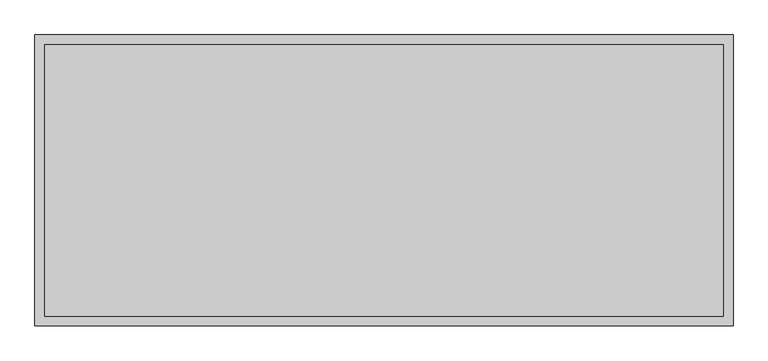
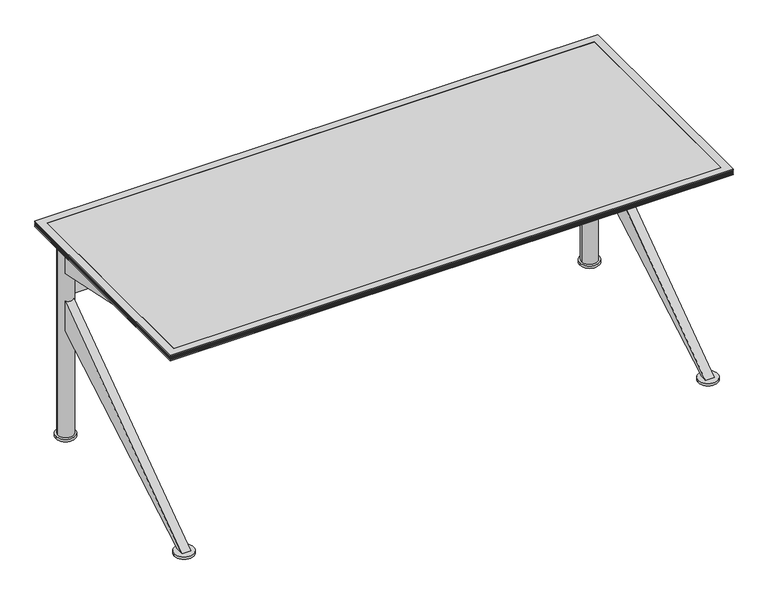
"""IFC4 building model written with IfcOpenShell, lengths in millimetres: furniture geometry, Coalesse_AM_Table_Conference_Ballet_Rectangular_KBase : Non Folding - 72L x 30W."""

from ifc_helpers import new_model, si_unit, point, frame, frame_2d, origin, origin_with_axes, place, context, project, spatial, polyline, circle_curve, trimmed, segment, composite_curve, outline, extrude, faceted_brep, source, transform, mapped, element, save
from ifc_brep_helpers import plane_surface, cylinder_surface, advanced_brep


def furniture_c7f1a0a6(model_context):
    return source(origin(), model_context, "Body", "SolidModel", [
        extrude(outline(composite_curve([segment(trimmed(circle_curve(frame_2d((-851.8092495, -349.25)), 25.4), [point((-877.2092495, -349.25))], [point((-826.4092495, -349.25))], False, "CARTESIAN"), True, "CONTINUOUS"), segment(trimmed(circle_curve(frame_2d((-851.8092495, -349.25)), 25.4), [point((-826.4092495, -349.25))], [point((-877.2092495, -349.25))], False, "CARTESIAN"), True, "CONTINUOUS")], self_intersect=False)), origin_with_axes(), (0.0, 0.0, 1.0), 4.2936144),
        extrude(outline(composite_curve([segment(trimmed(circle_curve(frame_2d((851.0624629, -349.25)), 25.4), [point((825.6624629, -349.25))], [point((876.4624629, -349.25))], False, "CARTESIAN"), True, "CONTINUOUS"), segment(trimmed(circle_curve(frame_2d((851.0624629, -349.25)), 25.4), [point((876.4624629, -349.25))], [point((825.6624629, -349.25))], False, "CARTESIAN"), True, "CONTINUOUS")], self_intersect=False)), origin_with_axes(), (0.0, 0.0, 1.0), 4.2936144),
        extrude(outline(composite_curve([segment(trimmed(circle_curve(frame_2d((851.0154995, 316.815286)), 25.4), [point((876.4154995, 316.815286))], [point((825.6154995, 316.815286))], False, "CARTESIAN"), True, "CONTINUOUS"), segment(trimmed(circle_curve(frame_2d((851.0154995, 316.815286)), 25.4), [point((825.6154995, 316.815286))], [point((876.4154995, 316.815286))], False, "CARTESIAN"), True, "CONTINUOUS")], self_intersect=False)), origin_with_axes(), (0.0, 0.0, 1.0), 4.2936144),
        extrude(outline(composite_curve([segment(trimmed(circle_curve(frame_2d((-851.8562129, 316.815286)), 25.4), [point((-826.4562129, 316.815286))], [point((-877.2562129, 316.815286))], False, "CARTESIAN"), True, "CONTINUOUS"), segment(trimmed(circle_curve(frame_2d((-851.8562129, 316.815286)), 25.4), [point((-877.2562129, 316.815286))], [point((-826.4562129, 316.815286))], False, "CARTESIAN"), True, "CONTINUOUS")], self_intersect=False)), origin_with_axes(), (0.0, 0.0, 1.0), 4.2936144),
        extrude(outline(composite_curve([segment(trimmed(circle_curve(frame_2d((851.0154995, 316.815286)), 31.75), [point((882.7654995, 316.815286))], [point((819.2654995, 316.815286))], False, "CARTESIAN"), True, "CONTINUOUS"), segment(trimmed(circle_curve(frame_2d((851.0154995, 316.815286)), 31.75), [point((819.2654995, 316.815286))], [point((882.7654995, 316.815286))], False, "CARTESIAN"), True, "CONTINUOUS")], self_intersect=False)), frame((0.0, 0.0, 4.2936144), z_axis=(0.0, 0.0, 1.0), x_axis=(1.0, 0.0, 0.0)), (0.0, 0.0, 1.0), 8.4063856),
        extrude(outline(composite_curve([segment(trimmed(circle_curve(frame_2d((-851.8562129, 316.815286)), 31.75), [point((-820.1062129, 316.815286))], [point((-883.6062129, 316.815286))], False, "CARTESIAN"), True, "CONTINUOUS"), segment(trimmed(circle_curve(frame_2d((-851.8562129, 316.815286)), 31.75), [point((-883.6062129, 316.815286))], [point((-820.1062129, 316.815286))], False, "CARTESIAN"), True, "CONTINUOUS")], self_intersect=False)), frame((0.0, 0.0, 4.2936144), z_axis=(0.0, 0.0, 1.0), x_axis=(1.0, 0.0, 0.0)), (0.0, 0.0, 1.0), 8.4063856),
        extrude(outline(polyline([(296.4656271, 577.7388634), (-269.874901, 698.5000242), (-238.124901, 698.5000242), (296.4656271, 641.3500242), (296.4656271, 577.7388634)])), frame((-865.2007845, 0.0, 0.0), z_axis=(1.0, 0.0, 0.0), x_axis=(0.0, 1.0, 0.0)), (0.0, 0.0, 1.0), 28.5877899),
        extrude(outline(polyline([(296.4656271, 381.0), (-338.1375951, 12.7), (-360.3624013, 12.7), (296.4656271, 482.7111245), (296.4656271, 381.0)])), frame((-865.2007845, 0.0, 0.0), z_axis=(1.0, 0.0, 0.0), x_axis=(0.0, 1.0, 0.0)), (0.0, 0.0, 1.0), 28.5877899),
        extrude(outline(polyline([(296.4656271, 577.7388634), (-269.874901, 698.5000242), (-238.124901, 698.5000242), (296.4656271, 641.3500242), (296.4656271, 577.7388634)])), frame((836.6121992, 0.0, 0.0), z_axis=(1.0, 0.0, 0.0), x_axis=(0.0, 1.0, 0.0)), (0.0, 0.0, 1.0), 28.575),
        extrude(outline(polyline([(296.4656271, 381.0), (-338.1375951, 12.7), (-360.3624013, 12.7), (296.4656271, 482.7111245), (296.4656271, 381.0)])), frame((836.6121992, 0.0, 0.0), z_axis=(1.0, 0.0, 0.0), x_axis=(0.0, 1.0, 0.0)), (0.0, 0.0, 1.0), 28.575),
        advanced_brep(
        [(828.9033169, 304.8000021, 568.3250121), (-828.9033169, 304.8000021, 568.3250121), (-828.9033169, 304.8000021, 492.1250121), (828.9033169, 304.8000021, 492.1250121), (-825.5003634, 317.5, 492.1250121), (-828.9032635, 330.1999052, 492.1250121), (828.9032635, 330.1999052, 492.1250121), (825.5003634, 317.5, 492.1250121), (-828.9032635, 330.1999052, 568.3250121), (828.9032635, 330.1999052, 568.3250121), (825.5003634, 317.5, 568.3250121), (-825.5003634, 317.5, 568.3250121), (-876.3003633, 317.5, 698.5000242), (-825.5003634, 317.5, 698.5000242), (825.5003634, 317.5, 698.5000242), (876.3003633, 317.5, 698.5000242), (-876.3003633, 317.5, 12.7), (-825.5003634, 317.5, 12.7), (825.5003634, 317.5, 12.7), (876.3003633, 317.5, 12.7)],
        [
            (0, 1),
            (1, 2),
            (2, 3),
            (3, 0),
            (2, 4, circle_curve(frame((-850.9003633, 317.5, 492.1250121), z_axis=(0.0, 0.0, 1.0), x_axis=(1.0, 0.0, 0.0)), 25.3999999)),
            (4, 5, circle_curve(frame((-850.9003633, 317.5, 492.1250121), z_axis=(0.0, 0.0, 1.0), x_axis=(1.0, 0.0, 0.0)), 25.3999999)),
            (5, 6),
            (6, 7, circle_curve(frame((850.9003633, 317.5, 492.1250121), z_axis=(0.0, 0.0, 1.0), x_axis=(1.0, 0.0, 0.0)), 25.3999999)),
            (7, 3, circle_curve(frame((850.9003633, 317.5, 492.1250121), z_axis=(0.0, 0.0, 1.0), x_axis=(1.0, 0.0, 0.0)), 25.3999999)),
            (5, 8),
            (8, 9),
            (9, 6),
            (0, 10, circle_curve(frame((850.9003633, 317.5, 568.3250121), z_axis=(0.0, 0.0, -1.0), x_axis=(1.0, 0.0, 0.0)), 25.3999999)),
            (10, 9, circle_curve(frame((850.9003633, 317.5, 568.3250121), z_axis=(0.0, 0.0, -1.0), x_axis=(1.0, 0.0, 0.0)), 25.3999999)),
            (8, 11, circle_curve(frame((-850.9003633, 317.5, 568.3250121), z_axis=(0.0, 0.0, -1.0), x_axis=(1.0, 0.0, 0.0)), 25.3999999)),
            (11, 1, circle_curve(frame((-850.9003633, 317.5, 568.3250121), z_axis=(0.0, 0.0, -1.0), x_axis=(1.0, 0.0, 0.0)), 25.3999999)),
            (12, 13, circle_curve(frame((-850.9003633, 317.5, 698.5000242), z_axis=(0.0, 0.0, 1.0), x_axis=(1.0, 0.0, 0.0)), 25.3999999)),
            (13, 12, circle_curve(frame((-850.9003633, 317.5, 698.5000242), z_axis=(0.0, 0.0, 1.0), x_axis=(1.0, 0.0, 0.0)), 25.3999999)),
            (14, 15, circle_curve(frame((850.9003633, 317.5, 698.5000242), z_axis=(0.0, 0.0, 1.0), x_axis=(1.0, 0.0, 0.0)), 25.3999999)),
            (15, 14, circle_curve(frame((850.9003633, 317.5, 698.5000242), z_axis=(0.0, 0.0, 1.0), x_axis=(1.0, 0.0, 0.0)), 25.3999999)),
            (16, 17, circle_curve(frame((-850.9003633, 317.5, 12.7), z_axis=(0.0, 0.0, -1.0), x_axis=(1.0, 0.0, 0.0)), 25.3999999)),
            (17, 16, circle_curve(frame((-850.9003633, 317.5, 12.7), z_axis=(0.0, 0.0, -1.0), x_axis=(1.0, 0.0, 0.0)), 25.3999999)),
            (18, 19, circle_curve(frame((850.9003633, 317.5, 12.7), z_axis=(0.0, 0.0, -1.0), x_axis=(1.0, 0.0, 0.0)), 25.3999999)),
            (19, 18, circle_curve(frame((850.9003633, 317.5, 12.7), z_axis=(0.0, 0.0, -1.0), x_axis=(1.0, 0.0, 0.0)), 25.3999999)),
            (12, 16),
            (17, 4),
            (11, 13),
            (14, 10),
            (7, 18),
            (19, 15),
        ],
        [
            plane_surface(frame((836.6121992, 304.8000021, 568.3250121), z_axis=(0.0, -1.0, 0.0), x_axis=(-1.0, 0.0, 0.0))),
            plane_surface(frame((836.6121992, 304.8000021, 492.1250121), z_axis=(0.0, 0.0, -1.0), x_axis=(-1.0, 0.0, 0.0))),
            plane_surface(frame((836.6121992, 330.1999052, 492.1250121), z_axis=(0.0, 1.0, 0.0), x_axis=(-1.0, 0.0, 0.0))),
            plane_surface(frame((836.6121992, 330.1999052, 568.3250121), z_axis=(0.0, 0.0, 1.0), x_axis=(-1.0, 0.0, 0.0))),
            plane_surface(frame((-825.5003634, 317.5, 698.5000242), z_axis=(0.0, 0.0, 1.0), x_axis=(0.0, 1.0, 0.0))),
            plane_surface(frame((-825.5003634, 317.5, 12.7), z_axis=(0.0, 0.0, -1.0), x_axis=(0.0, -1.0, 0.0))),
            cylinder_surface(frame((-850.9003633, 317.5, 12.7), z_axis=(0.0, 0.0, 1.0), x_axis=(1.0, 0.0, 0.0)), 25.3999999),
            cylinder_surface(frame((850.9003633, 317.5, 0.0), z_axis=(0.0, 0.0, 1.0), x_axis=(1.0, 0.0, 0.0)), 25.3999999),
        ],
        [
            (0, [[1, 2, 3, 4]]),
            (1, [[-3, 5, 6, 7, 8, 9]]),
            (2, [[-7, 10, 11, 12]]),
            (3, [[-1, 13, 14, -11, 15, 16]]),
            (4, [[17, 18]]),
            (4, [[19, 20]]),
            (5, [[21, 22]]),
            (5, [[23, 24]]),
            (6, [[-17, 25, -22, 26, -5, -2, -16, 27]]),
            (6, [[-18, -27, -15, -10, -6, -26, -21, -25]]),
            (7, [[-19, 28, -13, -4, -9, 29, -24, 30]]),
            (7, [[-20, -30, -23, -29, -8, -12, -14, -28]]),
        ],
    ),
        extrude(outline(composite_curve([segment(trimmed(circle_curve(frame_2d((-851.8092495, -349.25)), 31.75), [point((-883.5592495, -349.25))], [point((-820.0592495, -349.25))], False, "CARTESIAN"), True, "CONTINUOUS"), segment(trimmed(circle_curve(frame_2d((-851.8092495, -349.25)), 31.75), [point((-820.0592495, -349.25))], [point((-883.5592495, -349.25))], False, "CARTESIAN"), True, "CONTINUOUS")], self_intersect=False)), frame((0.0, 0.0, 4.2936144), z_axis=(0.0, 0.0, 1.0), x_axis=(1.0, 0.0, 0.0)), (0.0, 0.0, 1.0), 8.4063856),
        extrude(outline(composite_curve([segment(trimmed(circle_curve(frame_2d((851.0624629, -349.25)), 31.75), [point((819.3124629, -349.25))], [point((882.8124629, -349.25))], False, "CARTESIAN"), True, "CONTINUOUS"), segment(trimmed(circle_curve(frame_2d((851.0624629, -349.25)), 31.75), [point((882.8124629, -349.25))], [point((819.3124629, -349.25))], False, "CARTESIAN"), True, "CONTINUOUS")], self_intersect=False)), frame((0.0, 0.0, 4.2936144), z_axis=(0.0, 0.0, 1.0), x_axis=(1.0, 0.0, 0.0)), (0.0, 0.0, 1.0), 8.4063856),
        faceted_brep([(-914.4003633, 381.0, 704.85), (-889.0003876, 355.6000242, 698.5000242), (-889.0003876, -355.5999516, 698.5000242), (-914.4003633, -380.9999273, 704.85), (-914.4003633, 381.0, 708.0250242), (-914.4003633, -380.9999273, 708.0250242), (-911.2253755, 377.8250121, 709.6125), (-911.2253755, -377.8249394, 709.6125), (-914.4003633, 381.0, 711.1999758), (-914.4003633, -380.9999273, 711.1999758), (-911.2253755, 377.8250121, 712.7875242), (-911.2253755, -377.8249394, 712.7875242), (-914.4003633, 381.0, 714.375), (-914.4003633, -380.9999273, 714.375), (-911.2253755, 377.8250121, 715.9624758), (-911.2253755, -377.8249394, 715.9624758), (-914.4003633, 381.0, 717.5500242), (-914.4003633, -380.9999273, 717.5500242), (-911.2253755, 377.8250121, 719.1375), (-911.2253755, -377.8249394, 719.1375), (-914.4003633, 381.0, 720.7249758), (-914.4003633, -380.9999273, 720.7249758), (-914.4003633, 381.0, 723.9), (-914.4003633, -380.9999273, 723.9), (-889.0003876, 355.6000242, 723.9), (-889.0003876, -355.5999516, 723.9), (888.9998062, -355.5999516, 698.5000242), (914.399782, -380.9999273, 704.85), (914.399782, -380.9999273, 708.0250242), (911.2247941, -377.8249394, 709.6125), (914.399782, -380.9999273, 711.1999758), (911.2247941, -377.8249394, 712.7875242), (914.399782, -380.9999273, 714.375), (911.2247941, -377.8249394, 715.9624758), (914.399782, -380.9999273, 717.5500242), (911.2247941, -377.8249394, 719.1375), (914.399782, -380.9999273, 720.7249758), (914.399782, -380.9999273, 723.9), (888.9998062, -355.5999516, 723.9), (888.9998062, 355.6000242, 698.5000242), (914.399782, 381.0, 704.85), (914.399782, 381.0, 708.0250242), (911.2247941, 377.8250121, 709.6125), (914.399782, 381.0, 711.1999758), (911.2247941, 377.8250121, 712.7875242), (914.399782, 381.0, 714.375), (911.2247941, 377.8250121, 715.9624758), (914.399782, 381.0, 717.5500242), (911.2247941, 377.8250121, 719.1375), (914.399782, 381.0, 720.7249758), (914.399782, 381.0, 723.9), (888.9998062, 355.6000242, 723.9)], [[[0, 1, 2, 3]], [[4, 0, 3, 5]], [[6, 4, 5, 7]], [[8, 6, 7, 9]], [[10, 8, 9, 11]], [[12, 10, 11, 13]], [[14, 12, 13, 15]], [[16, 14, 15, 17]], [[18, 16, 17, 19]], [[20, 18, 19, 21]], [[22, 20, 21, 23]], [[1, 24, 25, 2]], [[3, 2, 26, 27]], [[5, 3, 27, 28]], [[7, 5, 28, 29]], [[9, 7, 29, 30]], [[11, 9, 30, 31]], [[13, 11, 31, 32]], [[15, 13, 32, 33]], [[17, 15, 33, 34]], [[19, 17, 34, 35]], [[21, 19, 35, 36]], [[23, 21, 36, 37]], [[2, 25, 38, 26]], [[27, 26, 39, 40]], [[28, 27, 40, 41]], [[29, 28, 41, 42]], [[30, 29, 42, 43]], [[31, 30, 43, 44]], [[32, 31, 44, 45]], [[33, 32, 45, 46]], [[34, 33, 46, 47]], [[35, 34, 47, 48]], [[36, 35, 48, 49]], [[37, 36, 49, 50]], [[26, 38, 51, 39]], [[40, 39, 1, 0]], [[41, 40, 0, 4]], [[42, 41, 4, 6]], [[43, 42, 6, 8]], [[44, 43, 8, 10]], [[45, 44, 10, 12]], [[46, 45, 12, 14]], [[47, 46, 14, 16]], [[48, 47, 16, 18]], [[49, 48, 18, 20]], [[50, 49, 20, 22]], [[23, 37, 50, 22], [24, 51, 38, 25]], [[39, 51, 24, 1]]]),
        extrude(outline(polyline([(888.9998062, 355.6000242), (888.9998062, -355.5999516), (-889.0003876, -355.5999516), (-889.0003876, 355.6000242), (888.9998062, 355.6000242)])), frame((0.0, 0.0, 704.85), z_axis=(0.0, 0.0, 1.0), x_axis=(1.0, 0.0, 0.0)), (0.0, 0.0, 1.0), 19.05),
    ])


if __name__ == "__main__":
    model = new_model("IFC4")
    model_context = context("Model", 3, world=origin())
    ifc_project = project(units=[si_unit("LENGTHUNIT", "METRE", prefix="MILLI")], contexts=[model_context])
    site = spatial("IfcSite", under=ifc_project)
    building = spatial("IfcBuilding", under=site)
    placement = place(None, origin())
    furniture_shape = furniture_c7f1a0a6(model_context)
    element("IfcFurniture", 1, ObjectType="Coalesse_AM_Table_Conference_Ballet_Rectangular_KBase : Non Folding - 72L x 30W", at=placement, inside=building, context=model_context, shape_type="MappedRepresentation", body=[
        mapped(furniture_shape, transform((0.0, 0.0, 0.0), x_axis=(1.0, 0.0, 0.0), y_axis=(0.0, 1.0, 0.0), z_axis=(0.0, 0.0, 1.0))),
    ])
    save(model, "model.ifc")
